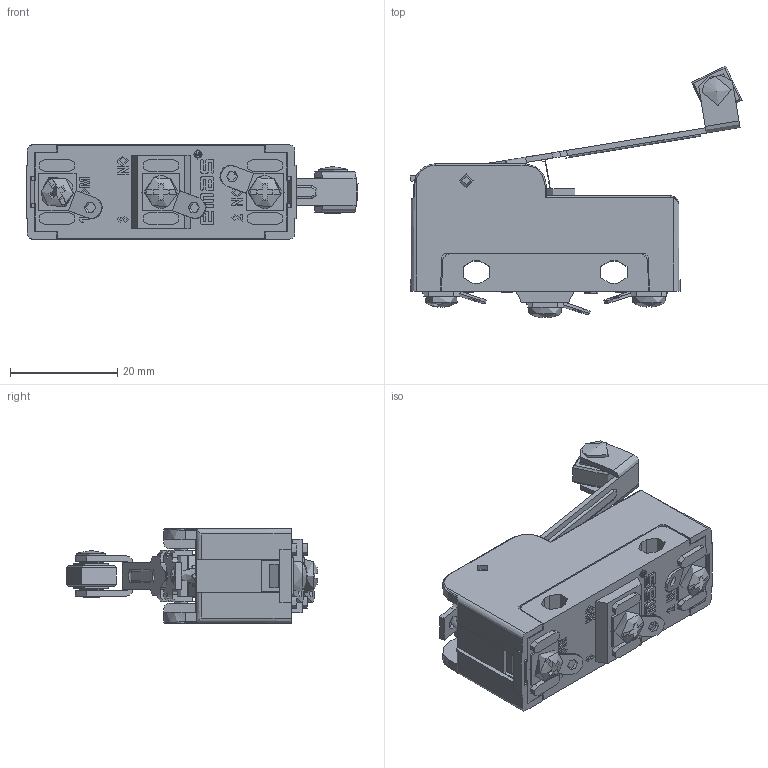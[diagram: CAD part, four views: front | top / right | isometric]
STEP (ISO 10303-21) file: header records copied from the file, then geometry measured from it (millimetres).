
FILE_DESCRIPTION((''),'2; 1');
FILE_NAME('','2026-03-27T16:29:44',(''),(''),'CST STEP Exporter V1.0','Unknown','');
FILE_SCHEMA(('CONFIG_CONTROL_DESIGN'));
Length unit declared in the file: metre
Assembly tree (16 placements, depth 2):
  (unnamed)
    (unnamed)
    (unnamed)
    (unnamed)
    (unnamed)
    (unnamed)
    (unnamed)
    (unnamed)
    (unnamed)
    (unnamed)
    (unnamed)
    (unnamed)
    (unnamed)
    (unnamed)
    (unnamed)
    (unnamed)
    (unnamed)
Bounding box: 62.05 x 47.07 x 17.7 mm (x, y, z)
Topology: 0 solids, 52 shells, 584 faces, 1743 edges, 1195 vertices
Faces by surface type: plane 348, cylinder 153, extrusion 52, torus 14, cone 11, sphere 4, bspline 2
Full cylindrical faces by diameter (mm): 1.4 x1, 1.8 x1, 1.9 x1, 2 x1, 2.2 x3, 2.5 x1, 2.6 x4, 3 x2, 3.2 x1, 3.9 x1, 5 x1, 5.5 x1, 7 x3, 8.2 x1, 10 x1
Entity records: 27299 total; most frequent: CARTESIAN_POINT 6628, ORIENTED_EDGE 3177, DIRECTION 3069, EDGE_CURVE 1755, VERTEX_POINT 1223, VECTOR 1153, LINE 1101, AXIS2_PLACEMENT_3D 958
